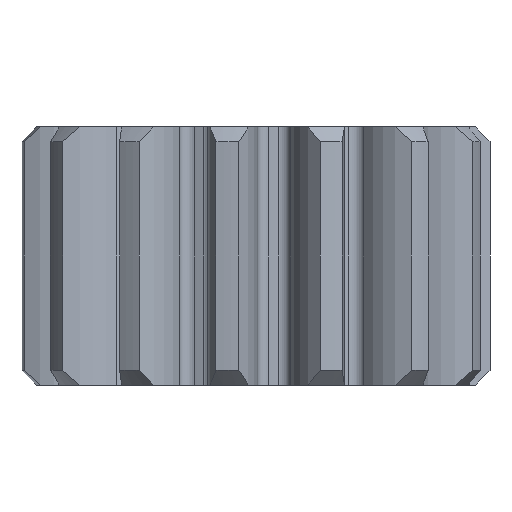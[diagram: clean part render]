
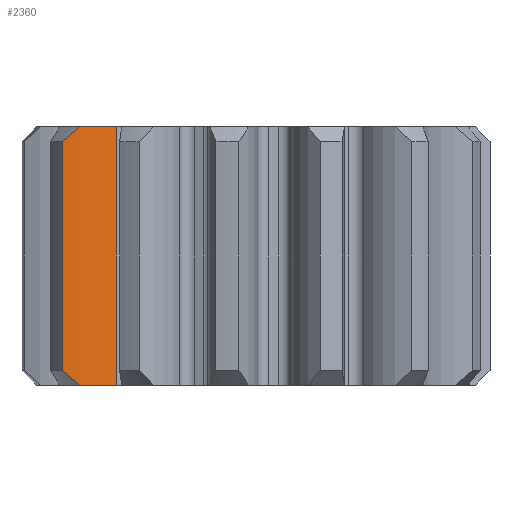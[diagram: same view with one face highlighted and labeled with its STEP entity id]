
A CAD part, front view. The second image highlights one B-rep face of the part: STEP entity #2360.
In plain terms, the highlighted cylindrical face has radius 2.205 mm (diameter 4.409 mm), a partial arc.
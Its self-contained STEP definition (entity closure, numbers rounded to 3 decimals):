
#11 = CARTESIAN_POINT ( 'NONE',  ( -4.777, -3.548, 0. ) ) ;
#82 = CYLINDRICAL_SURFACE ( 'NONE', #1297, 2.205 ) ;
#261 = CARTESIAN_POINT ( 'NONE',  ( -4.777, -3.548, 7. ) ) ;
#285 = AXIS2_PLACEMENT_3D ( 'NONE', #969, #669, #4115 ) ;
#357 = DIRECTION ( 'NONE',  ( -1., 0., 0. ) ) ;
#368 = VERTEX_POINT ( 'NONE', #1783 ) ;
#616 = EDGE_LOOP ( 'NONE', ( #1720, #2056, #1257, #1777, #1410, #4258 ) ) ;
#669 = DIRECTION ( 'NONE',  ( 0., 0., -1. ) ) ;
#699 = EDGE_CURVE ( 'NONE', #2858, #368, #1194, .T. ) ;
#738 = FACE_OUTER_BOUND ( 'NONE', #616, .T. ) ;
#765 = DIRECTION ( 'NONE',  ( 0., 0., -1. ) ) ;
#958 = VERTEX_POINT ( 'NONE', #2700 ) ;
#969 = CARTESIAN_POINT ( 'NONE',  ( -5.198, -1.384, 7. ) ) ;
#970 = VERTEX_POINT ( 'NONE', #1253 ) ;
#1194 = B_SPLINE_CURVE_WITH_KNOTS ( 'NONE', 3,
 ( #2777, #3082, #1334, #261 ),
 .UNSPECIFIED., .F., .F.,
 ( 4, 4 ),
 ( 0., 0.001 ),
 .UNSPECIFIED. ) ;
#1253 = CARTESIAN_POINT ( 'NONE',  ( -5.239, -3.588, 0.4 ) ) ;
#1257 = ORIENTED_EDGE ( 'NONE', *, *, #2063, .F. ) ;
#1297 = AXIS2_PLACEMENT_3D ( 'NONE', #1833, #2134, #357 ) ;
#1334 = CARTESIAN_POINT ( 'NONE',  ( -4.926, -3.577, 6.863 ) ) ;
#1410 = ORIENTED_EDGE ( 'NONE', *, *, #3953, .T. ) ;
#1485 = CARTESIAN_POINT ( 'NONE',  ( -4.777, -3.548, 0. ) ) ;
#1615 = EDGE_CURVE ( 'NONE', #2858, #970, #4277, .T. ) ;
#1720 = ORIENTED_EDGE ( 'NONE', *, *, #1615, .T. ) ;
#1777 = ORIENTED_EDGE ( 'NONE', *, *, #2818, .F. ) ;
#1783 = CARTESIAN_POINT ( 'NONE',  ( -4.777, -3.548, 7. ) ) ;
#1833 = CARTESIAN_POINT ( 'NONE',  ( -5.198, -1.384, 7. ) ) ;
#2056 = ORIENTED_EDGE ( 'NONE', *, *, #2972, .F. ) ;
#2063 = EDGE_CURVE ( 'NONE', #2931, #4174, #4519, .T. ) ;
#2134 = DIRECTION ( 'NONE',  ( 0., 0., -1. ) ) ;
#2149 = CARTESIAN_POINT ( 'NONE',  ( -5.239, -3.588, 6.6 ) ) ;
#2163 = DIRECTION ( 'NONE',  ( -0.623, -0.782, 0. ) ) ;
#2250 = CIRCLE ( 'NONE', #285, 2.205 ) ;
#2311 = AXIS2_PLACEMENT_3D ( 'NONE', #3917, #765, #2163 ) ;
#2360 = ADVANCED_FACE ( 'NONE', ( #738 ), #82, .T. ) ;
#2499 = LINE ( 'NONE', #2780, #3870 ) ;
#2536 = B_SPLINE_CURVE_WITH_KNOTS ( 'NONE', 3,
 ( #1485, #3308, #2988, #3993 ),
 .UNSPECIFIED., .F., .F.,
 ( 4, 4 ),
 ( 0., 0.001 ),
 .UNSPECIFIED. ) ;
#2700 = CARTESIAN_POINT ( 'NONE',  ( -3.768, -3.061, 7. ) ) ;
#2777 = CARTESIAN_POINT ( 'NONE',  ( -5.239, -3.588, 6.6 ) ) ;
#2780 = CARTESIAN_POINT ( 'NONE',  ( -3.768, -3.061, 7. ) ) ;
#2818 = EDGE_CURVE ( 'NONE', #958, #2931, #2499, .T. ) ;
#2858 = VERTEX_POINT ( 'NONE', #2149 ) ;
#2888 = CARTESIAN_POINT ( 'NONE',  ( -3.768, -3.061, 0. ) ) ;
#2931 = VERTEX_POINT ( 'NONE', #2888 ) ;
#2972 = EDGE_CURVE ( 'NONE', #4174, #970, #2536, .T. ) ;
#2988 = CARTESIAN_POINT ( 'NONE',  ( -5.08, -3.591, 0.271 ) ) ;
#3082 = CARTESIAN_POINT ( 'NONE',  ( -5.08, -3.591, 6.729 ) ) ;
#3308 = CARTESIAN_POINT ( 'NONE',  ( -4.926, -3.577, 0.137 ) ) ;
#3543 = DIRECTION ( 'NONE',  ( 0., 0., -1. ) ) ;
#3865 = DIRECTION ( 'NONE',  ( 0., 0., -1. ) ) ;
#3870 = VECTOR ( 'NONE', #3865, 1000. ) ;
#3917 = CARTESIAN_POINT ( 'NONE',  ( -5.198, -1.384, 0. ) ) ;
#3953 = EDGE_CURVE ( 'NONE', #958, #368, #2250, .T. ) ;
#3993 = CARTESIAN_POINT ( 'NONE',  ( -5.239, -3.588, 0.4 ) ) ;
#4115 = DIRECTION ( 'NONE',  ( -0.623, -0.782, 0. ) ) ;
#4174 = VERTEX_POINT ( 'NONE', #11 ) ;
#4258 = ORIENTED_EDGE ( 'NONE', *, *, #699, .F. ) ;
#4277 = LINE ( 'NONE', #4300, #4525 ) ;
#4300 = CARTESIAN_POINT ( 'NONE',  ( -5.239, -3.588, 3.5 ) ) ;
#4519 = CIRCLE ( 'NONE', #2311, 2.205 ) ;
#4525 = VECTOR ( 'NONE', #3543, 1000. ) ;
